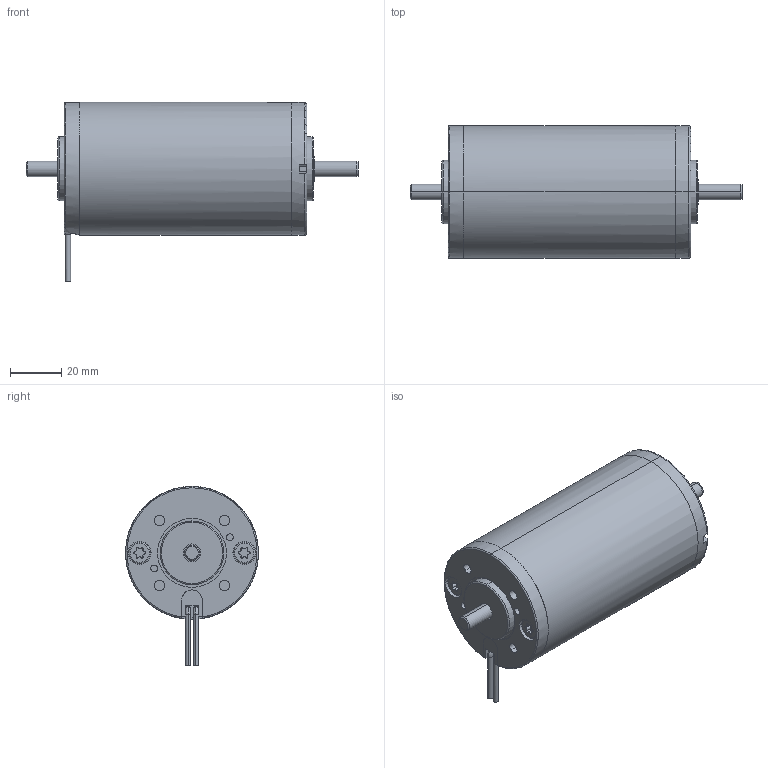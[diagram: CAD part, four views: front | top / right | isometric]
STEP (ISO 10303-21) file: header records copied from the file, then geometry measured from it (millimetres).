
FILE_DESCRIPTION (( 'STEP AP214' ), '1' );
FILE_NAME ('BRx52-30.STEP', '2021-11-09T10:49:17', ( '' ), ( '' ), 'SwSTEP 2.0', 'SolidWorks 2020', '' );
FILE_SCHEMA (( 'AUTOMOTIVE_DESIGN' ));
Length unit declared in the file: millimetre
Products named in the file (1): BRx52-30
Bounding box: 130 x 52.01 x 70.11 mm (x, y, z)
Volume: 203583.6 mm3; surface area: 23350.8 mm2
Topology: 2 solids, 4 shells, 217 faces, 526 edges, 341 vertices
Faces by surface type: cylinder 112, plane 77, torus 24, cone 4
Entity records: 7396 total; most frequent: CARTESIAN_POINT 1355, DIRECTION 1226, ORIENTED_EDGE 1052, EDGE_CURVE 526, AXIS2_PLACEMENT_3D 499, VERTEX_POINT 341, CIRCLE 281, EDGE_LOOP 247
